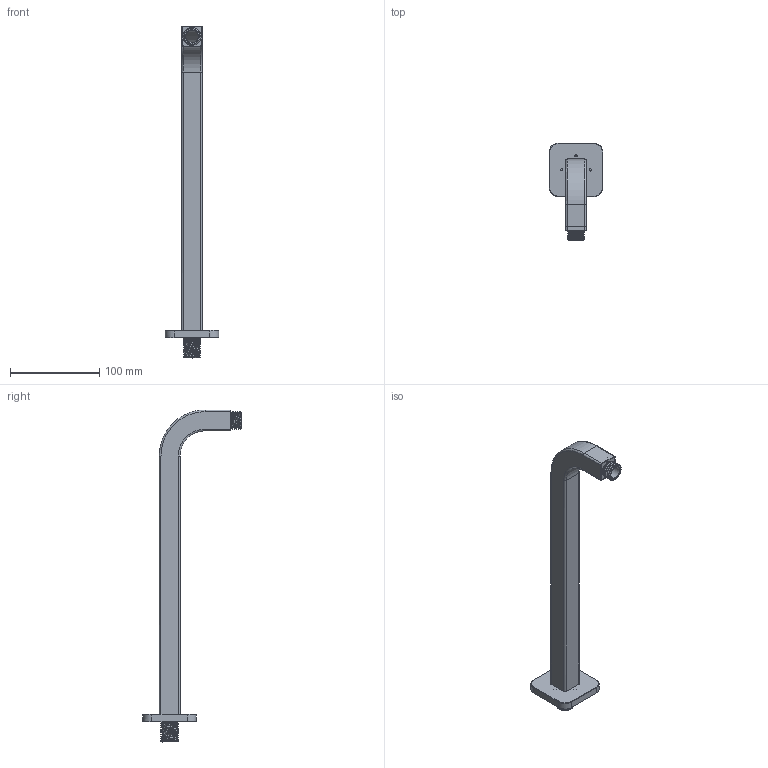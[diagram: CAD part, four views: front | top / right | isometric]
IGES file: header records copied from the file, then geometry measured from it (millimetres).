
Global section: file name: 641b7220-c160-4704-85f4-e22a9e5ad02a; native system: unknown; preprocessor: unknown; author: unknown; organization: unknown; date: 20191214.205218; units: millimetre
Bounding box: 60 x 110.25 x 373 mm (x, y, z)
Volume: 53009.7 mm3; surface area: 88469.8 mm2
Topology: 9 solids, 9 shells, 243 faces, 633 edges, 421 vertices
Faces by surface type: bspline 243
